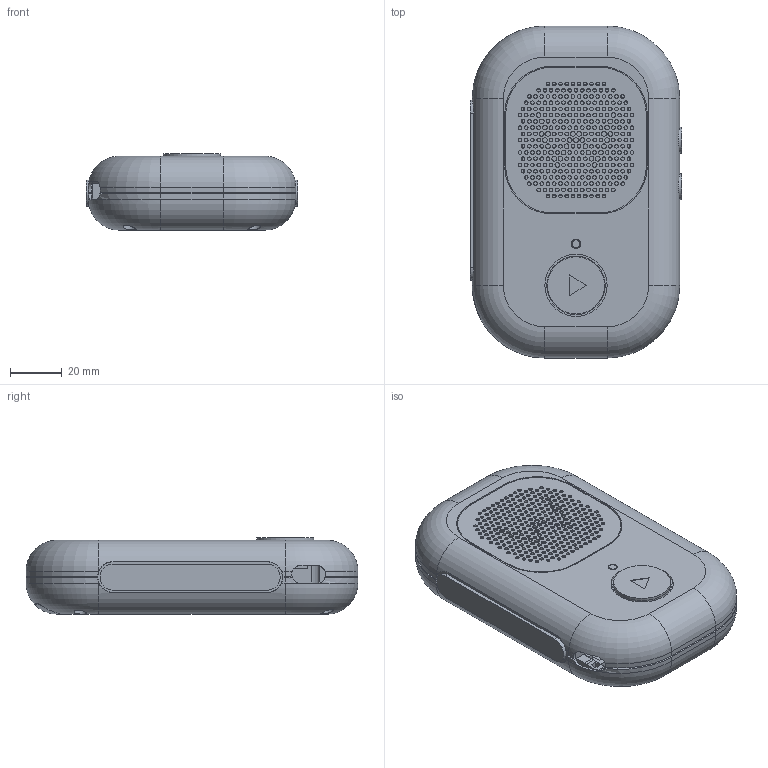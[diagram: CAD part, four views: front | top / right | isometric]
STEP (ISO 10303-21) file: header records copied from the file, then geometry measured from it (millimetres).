
FILE_DESCRIPTION(('Open CASCADE Model'),'2;1');
FILE_NAME('Open CASCADE Shape Model','2026-09-08T16:14:25',('Author'),( 'Open CASCADE'),'Open CASCADE STEP processor 7.7','Open CASCADE 7.7' ,'Unknown');
FILE_SCHEMA(('AUTOMOTIVE_DESIGN { 1 0 10303 214 1 1 1 1 }'));
Length unit declared in the file: millimetre
Products named in the file (66): CASE_23_2_SR1; 13_volume_up_diaphragm; 13_volume_up_diaphragm_part; 15_battery_isolation; 15_battery_isolation_part; 18_M2x20_rear_2; 18_M2x20_rear_2_part; 18_M2x20_rear_3; 18_M2x20_rear_3_part; 11_status_lightpipe; 11_status_lightpipe_part; 08_play_guide; 08_play_guide_part; 18_M2x20_rear_4; 18_M2x20_rear_4_part; 13_volume_down_diaphragm; 13_volume_down_diaphragm_part; 19_speaker_cradle; 19_speaker_cradle_part; 09_play_cap; 09_play_cap_part; FRONT_SWITCH_REACTION_PLATE; FRONT_SWITCH_REACTION_PLATE_part; 21_RF_window_bond; 21_RF_window_bond_part; 10_play_actuator; 10_play_actuator_part; 13_PTT_diaphragm; 13_PTT_diaphragm_part; 12_volume_down_cap; 12_volume_down_cap_part; 03_insulating_chassis; 03_insulating_chassis_part; 16_PCB_rail_R; 16_PCB_rail_R_part; FRONT_SWITCH_GUIDE_AND_MOUNT; FRONT_SWITCH_GUIDE_AND_MOUNT_part; 05_perforated_grille; 05_perforated_grille_part; 02_rear_stainless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
Assembly tree (65 placements, depth 4):
  CASE_23_2_SR1
    CASE_23_2_SR1
      13_volume_up_diaphragm
        13_volume_up_diaphragm_part
      15_battery_isolation
        15_battery_isolation_part
      18_M2x20_rear_2
        18_M2x20_rear_2_part
      18_M2x20_rear_3
        18_M2x20_rear_3_part
      11_status_lightpipe
        11_status_lightpipe_part
      08_play_guide
        08_play_guide_part
      18_M2x20_rear_4
        18_M2x20_rear_4_part
      13_volume_down_diaphragm
        13_volume_down_diaphragm_part
      19_speaker_cradle
        19_speaker_cradle_part
      09_play_cap
        09_play_cap_part
      FRONT_SWITCH_REACTION_PLATE
        FRONT_SWITCH_REACTION_PLATE_part
      21_RF_window_bond
        21_RF_window_bond_part
      10_play_actuator
        10_play_actuator_part
      13_PTT_diaphragm
        13_PTT_diaphragm_part
      12_volume_down_cap
        12_volume_down_cap_part
      03_insulating_chassis
        03_insulating_chassis_part
      16_PCB_rail_R
        16_PCB_rail_R_part
      FRONT_SWITCH_GUIDE_AND_MOUNT
        FRONT_SWITCH_GUIDE_AND_MOUNT_part
      05_perforated_grille
        05_perforated_grille_part
      02_rear_stainless
        02_rear_stainless_part
      01_front_stainless
        01_front_stainless_part
      12_volume_up_cap
        12_volume_up_cap_part
      06_grille_support
        06_grille_support_part
      07_grille_bond
        07_grille_bond_part
      14_battery_tray
        14_battery_tray_part
      12_PTT_cap
        12_PTT_cap_part
      18_M2x20_rear_1
        18_M2x20_rear_1_part
      16_PCB_rail_L
        16_PCB_rail_L_part
      04_RF_rear_window
        04_RF_rear_window_part
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Bounding box: 81.4 x 128 x 29.4 mm (x, y, z)
Volume: 63463.9 mm3; surface area: 102452.4 mm2
Topology: 32 solids, 32 shells, 1369 faces, 3802 edges, 2523 vertices
Faces by surface type: plane 767, cylinder 568, torus 34
Full cylindrical faces by diameter (mm): 1.4 x284, 1.7 x12, 1.8 x31, 1.96 x4, 2 x4, 2.2 x12, 2.8 x8, 3 x1, 3.6 x1, 4 x1, 4.4 x2, 4.6 x4, 5 x4, 5.4 x2, 5.6 x4, 6.8 x8, 7.6 x1, 10 x2, 11.8 x2, 21 x1, 22 x1, 22.5 x1, 23.8 x1, 24 x1, 26.4 x1
Entity records: 111568 total; most frequent: CARTESIAN_POINT 35895, DIRECTION 13368, LINE 7696, VECTOR 7696, ORIENTED_EDGE 7604, PCURVE 7604, DEFINITIONAL_REPRESENTATION 7604, EDGE_CURVE 3802
